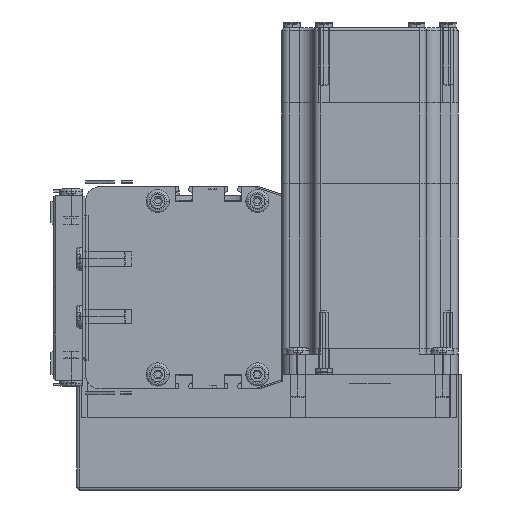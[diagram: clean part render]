
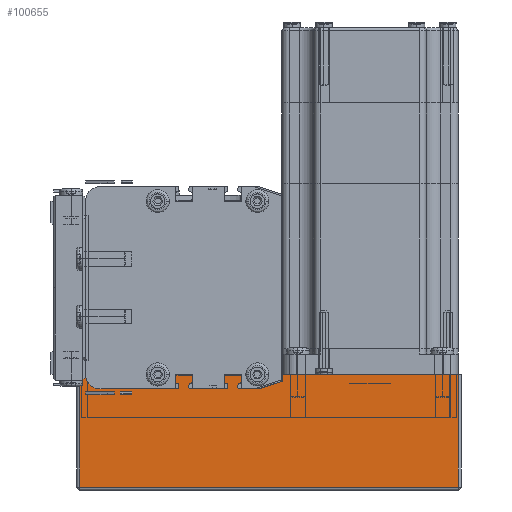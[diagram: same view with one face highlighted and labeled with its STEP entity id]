
A CAD part, left-side view. The second image highlights one B-rep face of the part: STEP entity #100655.
In plain terms, the highlighted planar face has unit normal (-1, 0, 0) as drawn and (0, 1, 0) by its records, which use the part's own axes.
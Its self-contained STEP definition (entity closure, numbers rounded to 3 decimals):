
#97023 = CARTESIAN_POINT ( 'NONE',  ( 1., 62., 0. ) ) ;
#97071 = CARTESIAN_POINT ( 'NONE',  ( 132., 62., 0. ) ) ;
#97374 = CARTESIAN_POINT ( 'NONE',  ( 0., 62., 0. ) ) ;
#97485 = DIRECTION ( 'NONE',  ( -1., 0., 0. ) ) ;
#97486 = VECTOR ( 'NONE', #97485, 1000. ) ;
#97497 = LINE ( 'NONE', #97374, #97486 ) ;
#97802 = DIRECTION ( 'NONE',  ( 0., 0., -1. ) ) ;
#97815 = DIRECTION ( 'NONE',  ( 0., -1., 0. ) ) ;
#97817 = CARTESIAN_POINT ( 'NONE',  ( 0., 62., 40. ) ) ;
#97825 = PLANE ( 'NONE',  #97827 ) ;
#97827 = AXIS2_PLACEMENT_3D ( 'NONE', #97817, #97815, #97802 ) ;
#97842 = FACE_OUTER_BOUND ( 'NONE', #100865, .T. ) ;
#97857 = DIRECTION ( 'NONE',  ( 1., 0., 0. ) ) ;
#97859 = VECTOR ( 'NONE', #97857, 1000. ) ;
#97866 = CARTESIAN_POINT ( 'NONE',  ( 0., 62., 39. ) ) ;
#97868 = LINE ( 'NONE', #97866, #97859 ) ;
#97889 = DIRECTION ( 'NONE',  ( 0., 0., -1. ) ) ;
#97890 = VECTOR ( 'NONE', #97889, 1000. ) ;
#97914 = CARTESIAN_POINT ( 'NONE',  ( 132., 62., 40. ) ) ;
#97915 = LINE ( 'NONE', #97914, #97890 ) ;
#97997 = DIRECTION ( 'NONE',  ( 0., 0., 1. ) ) ;
#97998 = VECTOR ( 'NONE', #97997, 1000. ) ;
#98003 = CARTESIAN_POINT ( 'NONE',  ( 1., 62., 40. ) ) ;
#98005 = LINE ( 'NONE', #98003, #97998 ) ;
#98069 = CARTESIAN_POINT ( 'NONE',  ( 1., 62., 39. ) ) ;
#98124 = CARTESIAN_POINT ( 'NONE',  ( 132., 62., 39. ) ) ;
#100557 = VERTEX_POINT ( 'NONE', #97071 ) ;
#100570 = VERTEX_POINT ( 'NONE', #97023 ) ;
#100585 = ORIENTED_EDGE ( 'NONE', *, *, #100731, .T. ) ;
#100637 = EDGE_CURVE ( 'NONE', #100557, #100570, #97497, .T. ) ;
#100655 = ADVANCED_FACE ( 'NONE', ( #97842 ), #97825, .F. ) ;
#100663 = ORIENTED_EDGE ( 'NONE', *, *, #100668, .T. ) ;
#100665 = ORIENTED_EDGE ( 'NONE', *, *, #100670, .T. ) ;
#100668 = EDGE_CURVE ( 'NONE', #100747, #100557, #97915, .T. ) ;
#100670 = EDGE_CURVE ( 'NONE', #100757, #100747, #97868, .T. ) ;
#100731 = EDGE_CURVE ( 'NONE', #100570, #100757, #98005, .T. ) ;
#100735 = ORIENTED_EDGE ( 'NONE', *, *, #100637, .T. ) ;
#100747 = VERTEX_POINT ( 'NONE', #98124 ) ;
#100757 = VERTEX_POINT ( 'NONE', #98069 ) ;
#100865 = EDGE_LOOP ( 'NONE', ( #100665, #100663, #100735, #100585 ) ) ;
